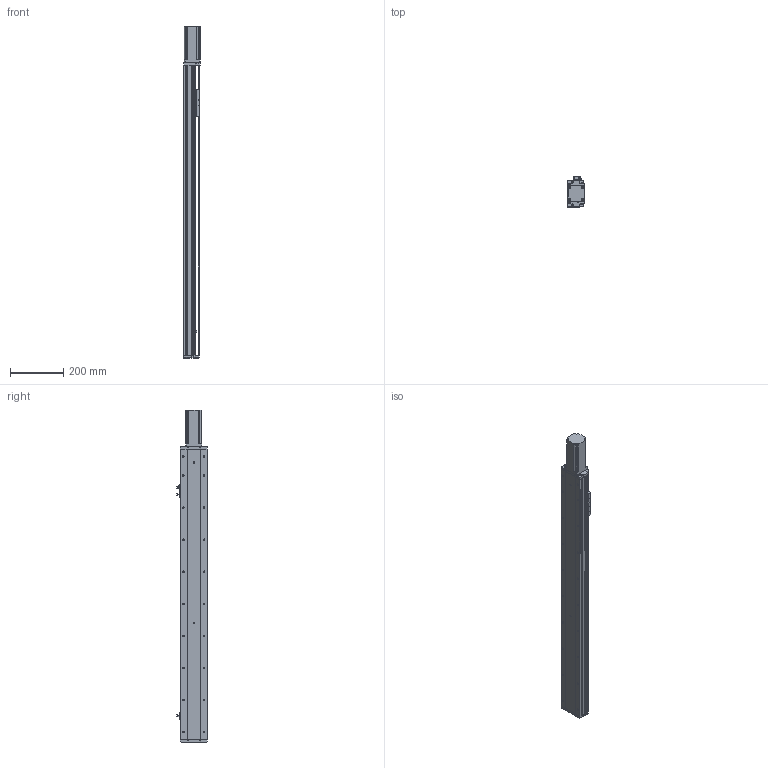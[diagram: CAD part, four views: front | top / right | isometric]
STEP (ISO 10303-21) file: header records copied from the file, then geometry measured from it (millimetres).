
FILE_DESCRIPTION (( 'STEP AP214' ), '1' );
FILE_NAME ('KSD100S-S850-MN-CM.STEP', '2019-08-30T07:43:59', ( '微软用户' ), ( '微软中国' ), 'SwSTEP 2.0', 'SolidWorks 2014', '' );
FILE_SCHEMA (( 'AUTOMOTIVE_DESIGN' ));
Length unit declared in the file: millimetre
Products named in the file (9): 台达ECMA－C20604AS伺服电机; 覜茼え100遵圉猾敕; U倰嫖萇EEㄜSX672; 100宽防尘板丝杆850行程不带电机座; 100宽马达安装板不带电机座; 100宽滚珠螺姆安装板半封闭; 100遵傷啣; 100宽底板半封闭850行程丝杆不带电机座; KSD100S-S850-MN-CM
Assembly tree (10 placements, depth 2):
  KSD100S-S850-MN-CM
    100宽底板半封闭850行程丝杆不带电机座
    100遵傷啣
    100宽滚珠螺姆安装板半封闭
    100宽马达安装板不带电机座
    100宽防尘板丝杆850行程不带电机座
    U倰嫖萇EEㄜSX672  x3
    覜茼え100遵圉猾敕
    台达ECMA－C20604AS伺服电机
Bounding box: 62 x 113.7 x 1242 mm (x, y, z)
Volume: 2566107.7 mm3; surface area: 809424.5 mm2
Topology: 11 solids, 11 shells, 1178 faces, 3348 edges, 2107 vertices
Faces by surface type: cylinder 571, plane 468, cone 139
Entity records: 41398 total; most frequent: CARTESIAN_POINT 8674, DIRECTION 5451, ORIENTED_EDGE 5324, EDGE_CURVE 2662, AXIS2_PLACEMENT_3D 1976, VERTEX_POINT 1731, VECTOR 1499, LINE 1499
